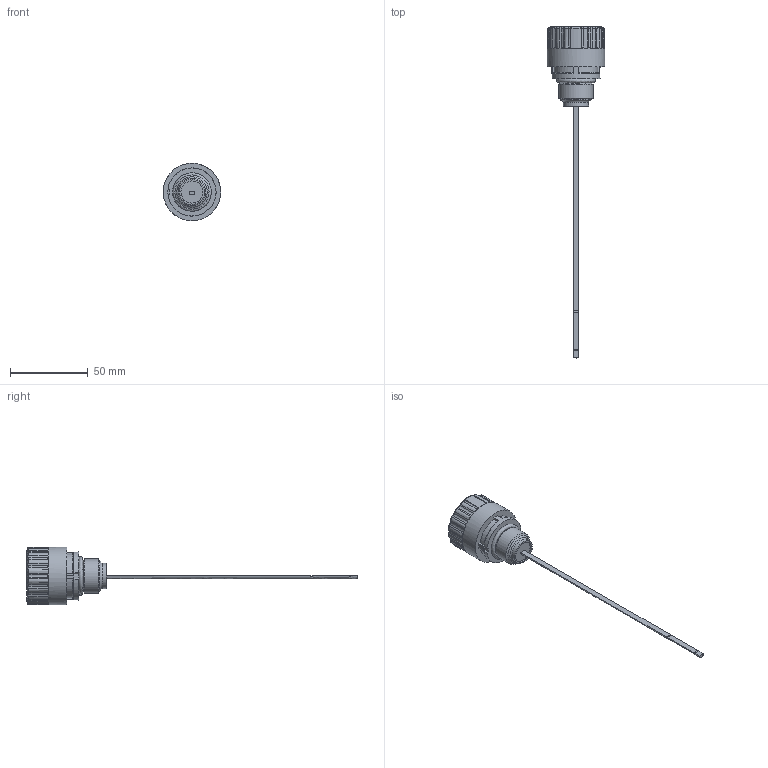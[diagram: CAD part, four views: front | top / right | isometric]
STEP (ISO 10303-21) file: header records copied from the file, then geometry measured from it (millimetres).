
FILE_DESCRIPTION((''),'2;1');
FILE_NAME('U:\Users\r.stiegele\L1_0406-98(12153900).stp', '2014-03-11T09:24:52',('User'),('SDRC'),'I-DEAS Master Series 9','UNIX', 'Yes');
FILE_SCHEMA(('AUTOMOTIVE_DESIGN { 1 0 10303 214 1 1 1 1 }'));
Length unit declared in the file: millimetre
Products named in the file (1): 12153900(334752)
Bounding box: 36.97 x 213.9 x 36.99 mm (x, y, z)
Volume: 39531.9 mm3; surface area: 9170.5 mm2
Topology: 1 solids, 1 shells, 447 faces, 1196 edges, 765 vertices
Faces by surface type: bspline 447
Entity records: 13901 total; most frequent: CARTESIAN_POINT 6865, ORIENTED_EDGE 2382, EDGE_CURVE 1191, VERTEX_POINT 765, B_SPLINE_CURVE_WITH_KNOTS 579, EDGE_LOOP 466, FACE_OUTER_BOUND 447, ADVANCED_FACE 447
